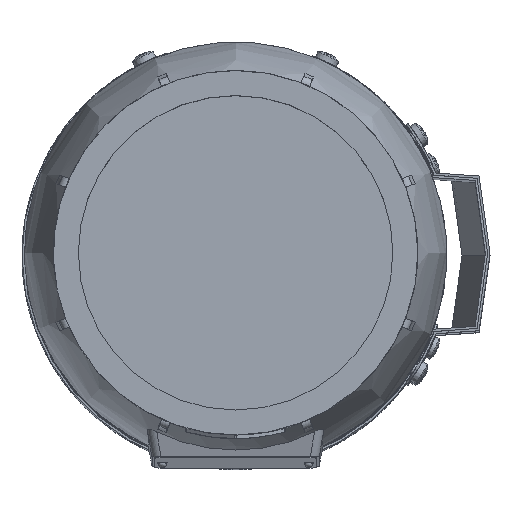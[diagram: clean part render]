
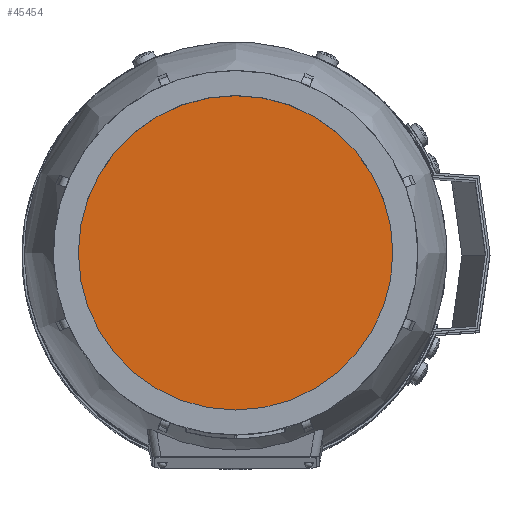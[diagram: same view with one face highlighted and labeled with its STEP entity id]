
A CAD part, top view. The second image highlights one B-rep face of the part: STEP entity #45454.
In plain terms, the highlighted planar face has unit normal (0, 0, 1) as drawn and (0, 1, 0) by its records, which use the part's own axes.
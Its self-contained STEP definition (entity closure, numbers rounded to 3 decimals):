
#9533=ORIENTED_EDGE('',*,*,#23271,.F.);
#23271=EDGE_CURVE('',#30140,#30140,#34767,.T.);
#30140=VERTEX_POINT('',#65596);
#34767=CIRCLE('',#47942,67.736);
#36843=EDGE_LOOP('',(#9533));
#40151=FACE_BOUND('',#36843,.T.);
#43477=PLANE('',#47941);
#45454=ADVANCED_FACE('',(#40151),#43477,.F.);
#47941=AXIS2_PLACEMENT_3D('',#65594,#52431,#52432);
#47942=AXIS2_PLACEMENT_3D('',#65595,#52433,#52434);
#52431=DIRECTION('',(0.,-1.,0.));
#52432=DIRECTION('',(0.,0.,-1.));
#52433=DIRECTION('',(0.,-1.,0.));
#52434=DIRECTION('',(0.,0.,-1.));
#65594=CARTESIAN_POINT('',(0.,154.,0.));
#65595=CARTESIAN_POINT('',(0.,154.,0.));
#65596=CARTESIAN_POINT('',(0.,154.,-67.736));
